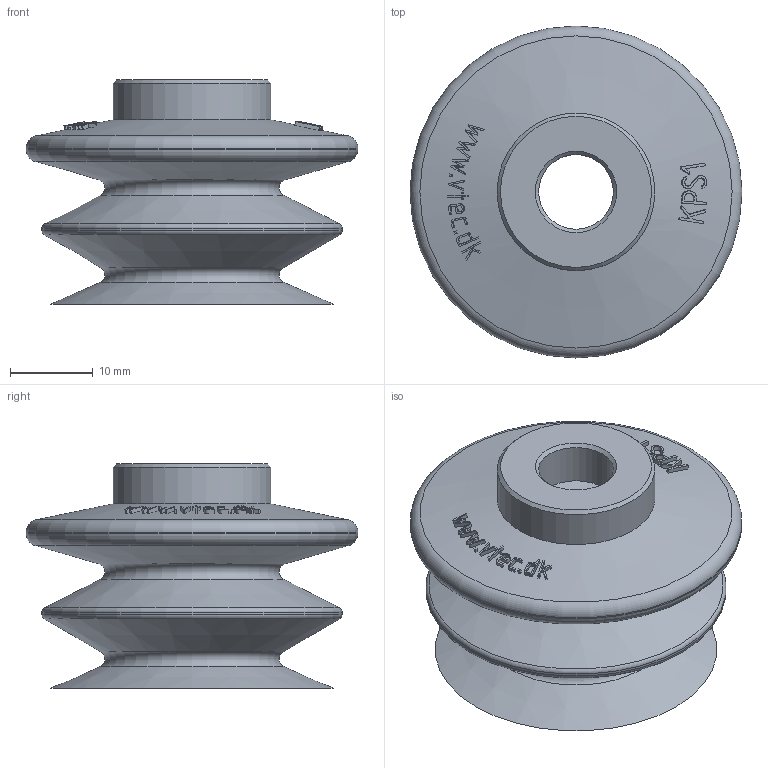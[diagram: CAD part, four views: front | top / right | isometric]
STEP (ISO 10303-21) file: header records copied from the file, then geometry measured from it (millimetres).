
FILE_DESCRIPTION( ( 'STEP AP203' ), '1' );
FILE_NAME( 'C:/撲啗紫賊-02/3D-蘋驍煎斜/Vacuum Pad/KPS series/KPS-1.stp', '2006-04-24T10:58:28', ( ' ' ), ( ' ' ), 'XStep 1.0', ' ', ' ' );
FILE_SCHEMA( ( 'CONFIG_CONTROL_DESIGN) ( )' ) );
Length unit declared in the file: metre
Products named in the file (1): 1
Bounding box: 40 x 40 x 27 mm (x, y, z)
Volume: 3487.3 mm3; surface area: 9782.3 mm2
Topology: 1 solids, 1 shells, 180 faces, 456 edges, 296 vertices
Faces by surface type: bspline 132, cone 32, torus 9, cylinder 4, plane 3
Full cylindrical faces by diameter (mm): 9 x1, 19 x1, 36.2 x1, 40 x1
Entity records: 10017 total; most frequent: CARTESIAN_POINT 6790, ORIENTED_EDGE 852, EDGE_CURVE 426, B_SPLINE_CURVE_WITH_KNOTS 332, VERTEX_POINT 294, EDGE_LOOP 228, DIRECTION 222, FACE_OUTER_BOUND 193
